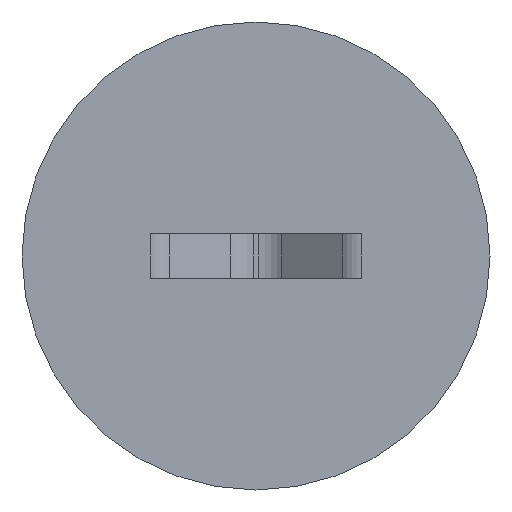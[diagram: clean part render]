
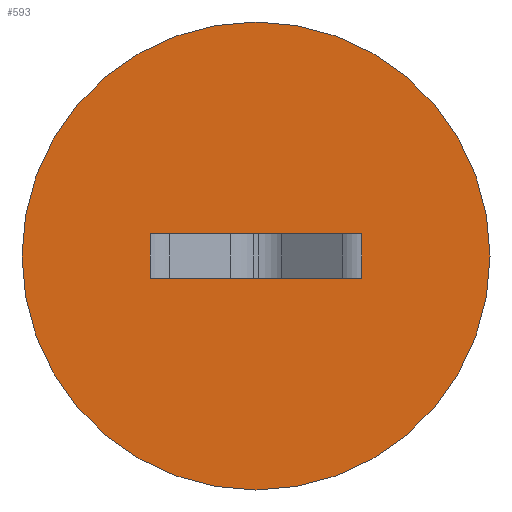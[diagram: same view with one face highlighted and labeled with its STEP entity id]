
A CAD part, front view. The second image highlights one B-rep face of the part: STEP entity #593.
In plain terms, the highlighted planar face has unit normal (0, -1, 0).
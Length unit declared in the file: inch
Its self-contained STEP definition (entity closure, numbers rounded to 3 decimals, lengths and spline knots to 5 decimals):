
#28 = ORIENTED_EDGE ( 'NONE', *, *, #701, .T. ) ;
#31 = EDGE_CURVE ( 'NONE', #121, #609, #160, .T. ) ;
#88 = VECTOR ( 'NONE', #689, 39.37008 ) ;
#108 = CARTESIAN_POINT ( 'NONE',  ( 0., -0.048, -0.059 ) ) ;
#121 = VERTEX_POINT ( 'NONE', #408 ) ;
#125 = EDGE_LOOP ( 'NONE', ( #658, #240, #169, #352 ) ) ;
#147 = AXIS2_PLACEMENT_3D ( 'NONE', #731, #489, #800 ) ;
#160 = LINE ( 'NONE', #228, #353 ) ;
#169 = ORIENTED_EDGE ( 'NONE', *, *, #757, .F. ) ;
#175 = DIRECTION ( 'NONE',  ( 1., 0., 0. ) ) ;
#180 = LINE ( 'NONE', #496, #647 ) ;
#228 = CARTESIAN_POINT ( 'NONE',  ( -0.28204, -0.048, -0.118 ) ) ;
#240 = ORIENTED_EDGE ( 'NONE', *, *, #782, .F. ) ;
#246 = LINE ( 'NONE', #310, #392 ) ;
#281 = CARTESIAN_POINT ( 'NONE',  ( 0., -0.048, -0.059 ) ) ;
#292 = AXIS2_PLACEMENT_3D ( 'NONE', #281, #598, #662 ) ;
#310 = CARTESIAN_POINT ( 'NONE',  ( -0.28204, -0.048, -0.118 ) ) ;
#352 = ORIENTED_EDGE ( 'NONE', *, *, #722, .F. ) ;
#353 = VECTOR ( 'NONE', #534, 39.37008 ) ;
#354 = FACE_BOUND ( 'NONE', #125, .T. ) ;
#359 = VERTEX_POINT ( 'NONE', #633 ) ;
#370 = DIRECTION ( 'NONE',  ( 1., 0., 0. ) ) ;
#392 = VECTOR ( 'NONE', #370, 39.37008 ) ;
#397 = CARTESIAN_POINT ( 'NONE',  ( 0.28204, -0.048, 0. ) ) ;
#404 = CARTESIAN_POINT ( 'NONE',  ( 0.625, -0.048, -0.059 ) ) ;
#408 = CARTESIAN_POINT ( 'NONE',  ( -0.28204, -0.048, -0.118 ) ) ;
#424 = VERTEX_POINT ( 'NONE', #397 ) ;
#436 = DIRECTION ( 'NONE',  ( 0., 0., 1. ) ) ;
#443 = VERTEX_POINT ( 'NONE', #659 ) ;
#449 = LINE ( 'NONE', #696, #88 ) ;
#469 = VERTEX_POINT ( 'NONE', #404 ) ;
#489 = DIRECTION ( 'NONE',  ( 0., -1., 0. ) ) ;
#496 = CARTESIAN_POINT ( 'NONE',  ( 0.28204, -0.048, -0.118 ) ) ;
#516 = EDGE_LOOP ( 'NONE', ( #28, #682 ) ) ;
#534 = DIRECTION ( 'NONE',  ( 0., 0., 1. ) ) ;
#551 = EDGE_CURVE ( 'NONE', #359, #469, #650, .T. ) ;
#554 = FACE_OUTER_BOUND ( 'NONE', #516, .T. ) ;
#569 = CIRCLE ( 'NONE', #583, 0.625 ) ;
#583 = AXIS2_PLACEMENT_3D ( 'NONE', #108, #745, #175 ) ;
#593 = ADVANCED_FACE ( 'NONE', ( #554, #354 ), #666, .T. ) ;
#598 = DIRECTION ( 'NONE',  ( 0., -1., 0. ) ) ;
#609 = VERTEX_POINT ( 'NONE', #675 ) ;
#633 = CARTESIAN_POINT ( 'NONE',  ( -0.625, -0.048, -0.059 ) ) ;
#647 = VECTOR ( 'NONE', #436, 39.37008 ) ;
#650 = CIRCLE ( 'NONE', #292, 0.625 ) ;
#658 = ORIENTED_EDGE ( 'NONE', *, *, #31, .T. ) ;
#659 = CARTESIAN_POINT ( 'NONE',  ( 0.28204, -0.048, -0.118 ) ) ;
#662 = DIRECTION ( 'NONE',  ( 1., 0., 0. ) ) ;
#666 = PLANE ( 'NONE',  #147 ) ;
#675 = CARTESIAN_POINT ( 'NONE',  ( -0.28204, -0.048, 0. ) ) ;
#682 = ORIENTED_EDGE ( 'NONE', *, *, #551, .T. ) ;
#689 = DIRECTION ( 'NONE',  ( -1., 0., 0. ) ) ;
#696 = CARTESIAN_POINT ( 'NONE',  ( -0.28204, -0.048, 0. ) ) ;
#701 = EDGE_CURVE ( 'NONE', #469, #359, #569, .T. ) ;
#722 = EDGE_CURVE ( 'NONE', #121, #443, #246, .T. ) ;
#731 = CARTESIAN_POINT ( 'NONE',  ( 0.28204, -0.048, -0.118 ) ) ;
#745 = DIRECTION ( 'NONE',  ( 0., -1., 0. ) ) ;
#757 = EDGE_CURVE ( 'NONE', #443, #424, #180, .T. ) ;
#782 = EDGE_CURVE ( 'NONE', #424, #609, #449, .T. ) ;
#800 = DIRECTION ( 'NONE',  ( 1., 0., 0. ) ) ;
